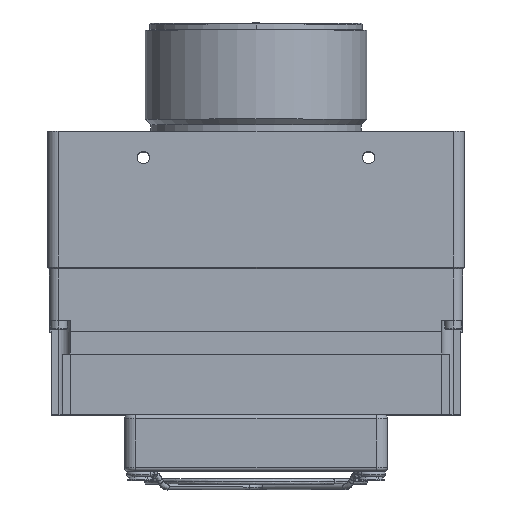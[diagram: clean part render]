
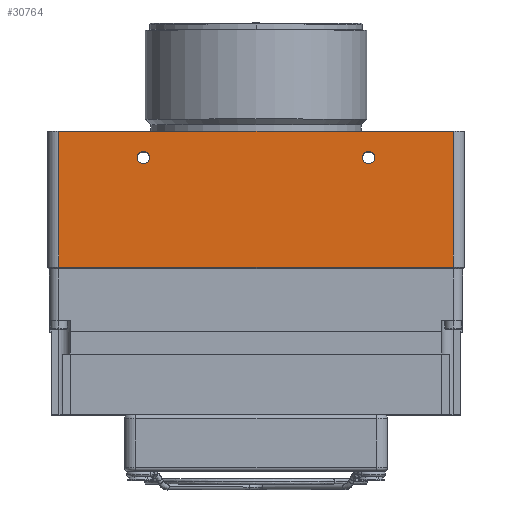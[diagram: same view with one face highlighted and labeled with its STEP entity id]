
A CAD part, top view. The second image highlights one B-rep face of the part: STEP entity #30764.
In plain terms, the highlighted planar face has unit normal (0, 0, 1).
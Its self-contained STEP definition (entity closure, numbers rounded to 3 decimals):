
#497 = DIRECTION ( 'NONE',  ( 0., 0., 1. ) ) ;
#1295 = DIRECTION ( 'NONE',  ( 0., 1., 0. ) ) ;
#1350 = DIRECTION ( 'NONE',  ( 0., 1., 0. ) ) ;
#1401 = ORIENTED_EDGE ( 'NONE', *, *, #8236, .F. ) ;
#1582 = DIRECTION ( 'NONE',  ( 0., 1., 0. ) ) ;
#1868 = CARTESIAN_POINT ( 'NONE',  ( 42.5, 53.33, 55.5 ) ) ;
#3210 = CIRCLE ( 'NONE', #14214, 1.65 ) ;
#3344 = ORIENTED_EDGE ( 'NONE', *, *, #15614, .F. ) ;
#3391 = VERTEX_POINT ( 'NONE', #14810 ) ;
#3861 = CIRCLE ( 'NONE', #5454, 1.65 ) ;
#3989 = DIRECTION ( 'NONE',  ( 0., 1., 0. ) ) ;
#4032 = VERTEX_POINT ( 'NONE', #1868 ) ;
#4424 = CARTESIAN_POINT ( 'NONE',  ( 20., 47.98, 55.5 ) ) ;
#5454 = AXIS2_PLACEMENT_3D ( 'NONE', #16817, #26167, #1582 ) ;
#6516 = ORIENTED_EDGE ( 'NONE', *, *, #10744, .T. ) ;
#7084 = EDGE_LOOP ( 'NONE', ( #6516, #31344, #22765, #27882 ) ) ;
#8019 = EDGE_CURVE ( 'NONE', #12164, #3391, #30136, .T. ) ;
#8236 = EDGE_CURVE ( 'NONE', #29752, #22556, #35439, .T. ) ;
#10446 = ORIENTED_EDGE ( 'NONE', *, *, #25637, .F. ) ;
#10705 = CARTESIAN_POINT ( 'NONE',  ( -62.5, 17.15, 55.5 ) ) ;
#10744 = EDGE_CURVE ( 'NONE', #29305, #12164, #16555, .T. ) ;
#10828 = CARTESIAN_POINT ( 'NONE',  ( -68., 53.33, 55.5 ) ) ;
#11069 = VECTOR ( 'NONE', #20144, 1000. ) ;
#12164 = VERTEX_POINT ( 'NONE', #10705 ) ;
#12388 = LINE ( 'NONE', #12801, #38292 ) ;
#12782 = VERTEX_POINT ( 'NONE', #33213 ) ;
#12801 = CARTESIAN_POINT ( 'NONE',  ( 42.5, 17.15, 55.5 ) ) ;
#12918 = CARTESIAN_POINT ( 'NONE',  ( -40., 46.33, 55.5 ) ) ;
#13380 = CARTESIAN_POINT ( 'NONE',  ( -40., 44.68, 55.5 ) ) ;
#13720 = DIRECTION ( 'NONE',  ( 0., 0., 1. ) ) ;
#14214 = AXIS2_PLACEMENT_3D ( 'NONE', #12918, #497, #3989 ) ;
#14491 = EDGE_CURVE ( 'NONE', #4032, #29305, #26329, .T. ) ;
#14810 = CARTESIAN_POINT ( 'NONE',  ( 42.5, 17.15, 55.5 ) ) ;
#15614 = EDGE_CURVE ( 'NONE', #12782, #28229, #32475, .T. ) ;
#16555 = LINE ( 'NONE', #32119, #39615 ) ;
#16817 = CARTESIAN_POINT ( 'NONE',  ( 20., 46.33, 55.5 ) ) ;
#19215 = DIRECTION ( 'NONE',  ( 0., 1., 0. ) ) ;
#19345 = CARTESIAN_POINT ( 'NONE',  ( 20., 46.33, 55.5 ) ) ;
#19664 = DIRECTION ( 'NONE',  ( 0., 0., 1. ) ) ;
#20099 = DIRECTION ( 'NONE',  ( 0., -1., 0. ) ) ;
#20144 = DIRECTION ( 'NONE',  ( -1., 0., 0. ) ) ;
#22019 = VECTOR ( 'NONE', #33696, 1000. ) ;
#22556 = VERTEX_POINT ( 'NONE', #4424 ) ;
#22746 = DIRECTION ( 'NONE',  ( 1., 0., 0. ) ) ;
#22765 = ORIENTED_EDGE ( 'NONE', *, *, #27267, .T. ) ;
#22993 = CARTESIAN_POINT ( 'NONE',  ( -40., 46.33, 55.5 ) ) ;
#23383 = AXIS2_PLACEMENT_3D ( 'NONE', #22993, #19664, #1350 ) ;
#23656 = EDGE_CURVE ( 'NONE', #22556, #29752, #3861, .T. ) ;
#24038 = EDGE_LOOP ( 'NONE', ( #34177, #1401 ) ) ;
#25637 = EDGE_CURVE ( 'NONE', #28229, #12782, #3210, .T. ) ;
#26167 = DIRECTION ( 'NONE',  ( 0., 0., 1. ) ) ;
#26329 = LINE ( 'NONE', #10828, #11069 ) ;
#27247 = CARTESIAN_POINT ( 'NONE',  ( 45., 17.15, 55.5 ) ) ;
#27267 = EDGE_CURVE ( 'NONE', #3391, #4032, #12388, .T. ) ;
#27673 = AXIS2_PLACEMENT_3D ( 'NONE', #37540, #34566, #22746 ) ;
#27882 = ORIENTED_EDGE ( 'NONE', *, *, #14491, .T. ) ;
#28229 = VERTEX_POINT ( 'NONE', #13380 ) ;
#28852 = FACE_BOUND ( 'NONE', #34557, .T. ) ;
#29305 = VERTEX_POINT ( 'NONE', #29616 ) ;
#29616 = CARTESIAN_POINT ( 'NONE',  ( -62.5, 53.33, 55.5 ) ) ;
#29752 = VERTEX_POINT ( 'NONE', #31623 ) ;
#30136 = LINE ( 'NONE', #27247, #22019 ) ;
#30764 = ADVANCED_FACE ( 'NONE', ( #36661, #28852, #34692 ), #31297, .F. ) ;
#31297 = PLANE ( 'NONE',  #27673 ) ;
#31344 = ORIENTED_EDGE ( 'NONE', *, *, #8019, .T. ) ;
#31623 = CARTESIAN_POINT ( 'NONE',  ( 20., 44.68, 55.5 ) ) ;
#32119 = CARTESIAN_POINT ( 'NONE',  ( -62.5, 17.15, 55.5 ) ) ;
#32475 = CIRCLE ( 'NONE', #23383, 1.65 ) ;
#33213 = CARTESIAN_POINT ( 'NONE',  ( -40., 47.98, 55.5 ) ) ;
#33696 = DIRECTION ( 'NONE',  ( 1., 0., 0. ) ) ;
#34177 = ORIENTED_EDGE ( 'NONE', *, *, #23656, .F. ) ;
#34557 = EDGE_LOOP ( 'NONE', ( #3344, #10446 ) ) ;
#34566 = DIRECTION ( 'NONE',  ( 0., 0., -1. ) ) ;
#34692 = FACE_OUTER_BOUND ( 'NONE', #7084, .T. ) ;
#35439 = CIRCLE ( 'NONE', #36056, 1.65 ) ;
#36056 = AXIS2_PLACEMENT_3D ( 'NONE', #19345, #13720, #1295 ) ;
#36661 = FACE_BOUND ( 'NONE', #24038, .T. ) ;
#37540 = CARTESIAN_POINT ( 'NONE',  ( -68., 17.15, 55.5 ) ) ;
#38292 = VECTOR ( 'NONE', #19215, 1000. ) ;
#39615 = VECTOR ( 'NONE', #20099, 1000. ) ;
